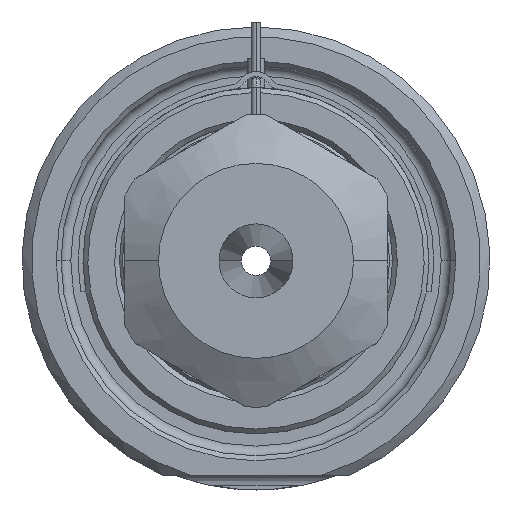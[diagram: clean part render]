
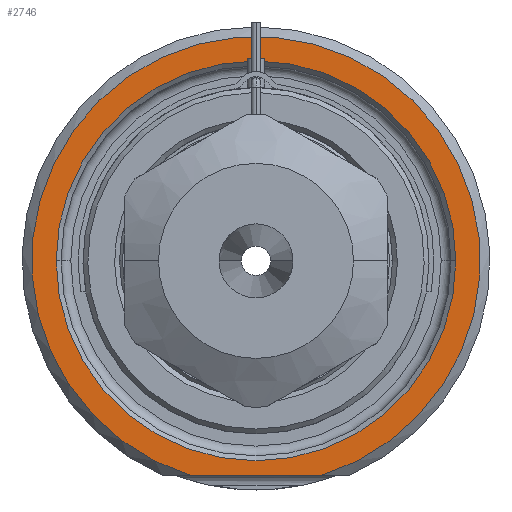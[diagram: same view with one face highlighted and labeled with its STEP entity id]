
A CAD part, front view. The second image highlights one B-rep face of the part: STEP entity #2746.
In plain terms, the highlighted planar face has unit normal (0, -1, 0).
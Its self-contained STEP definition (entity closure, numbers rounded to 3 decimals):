
#1=DIRECTION('',(1.,0.,0.));
#2=VECTOR('',#1,13.416);
#3=CARTESIAN_POINT('',(-6.708,0.,-22.));
#4=LINE('',#3,#2);
#5=CARTESIAN_POINT('',(0.,0.,0.));
#6=DIRECTION('',(0.,1.,0.));
#7=DIRECTION('',(-1.,0.,0.));
#8=AXIS2_PLACEMENT_3D('',#5,#6,#7);
#10=CARTESIAN_POINT('',(0.,0.,0.));
#11=DIRECTION('',(0.,1.,0.));
#12=DIRECTION('',(1.,0.,0.));
#13=AXIS2_PLACEMENT_3D('',#10,#11,#12);
#121=CARTESIAN_POINT('',(0.,0.,0.));
#122=DIRECTION('',(0.,-1.,0.));
#123=DIRECTION('',(0.292,0.,-0.957));
#124=AXIS2_PLACEMENT_3D('',#121,#122,#123);
#2286=CARTESIAN_POINT('',(-20.5,0.,0.));
#2287=CARTESIAN_POINT('',(20.5,0.,0.));
#2288=VERTEX_POINT('',#2286);
#2289=VERTEX_POINT('',#2287);
#2326=CARTESIAN_POINT('',(-6.708,0.,-22.));
#2327=CARTESIAN_POINT('',(6.708,0.,-22.));
#2328=VERTEX_POINT('',#2326);
#2329=VERTEX_POINT('',#2327);
#2729=CARTESIAN_POINT('',(0.,0.,0.));
#2730=DIRECTION('',(0.,-1.,0.));
#2731=DIRECTION('',(1.,0.,0.));
#2732=AXIS2_PLACEMENT_3D('',#2729,#2730,#2731);
#2733=PLANE('',#2732);
#2735=ORIENTED_EDGE('',*,*,#2734,.F.);
#2737=ORIENTED_EDGE('',*,*,#2736,.F.);
#2738=EDGE_LOOP('',(#2735,#2737));
#2739=FACE_OUTER_BOUND('',#2738,.F.);
#2741=ORIENTED_EDGE('',*,*,#2740,.F.);
#2743=ORIENTED_EDGE('',*,*,#2742,.F.);
#2744=EDGE_LOOP('',(#2741,#2743));
#2745=FACE_BOUND('',#2744,.F.);
#2746=ADVANCED_FACE('',(#2739,#2745),#2733,.T.);
#9=CIRCLE('',#8,20.5);
#14=CIRCLE('',#13,20.5);
#125=CIRCLE('',#124,23.);
#2734=EDGE_CURVE('',#2328,#2329,#4,.T.);
#2736=EDGE_CURVE('',#2329,#2328,#125,.T.);
#2740=EDGE_CURVE('',#2288,#2289,#9,.T.);
#2742=EDGE_CURVE('',#2289,#2288,#14,.T.);
